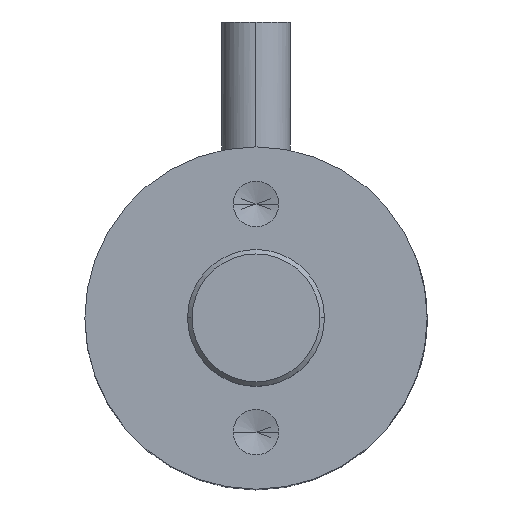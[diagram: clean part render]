
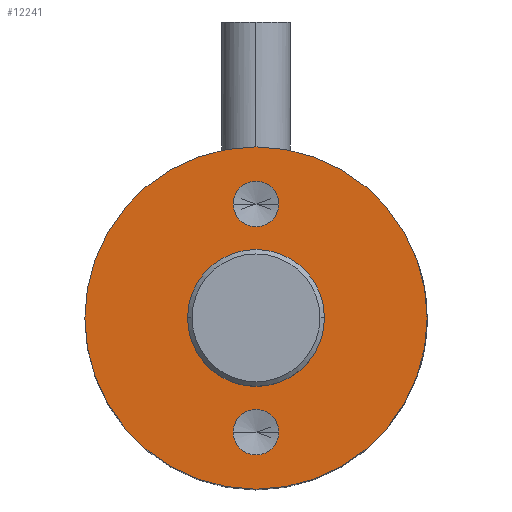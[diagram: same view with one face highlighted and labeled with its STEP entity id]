
A CAD part, top view. The second image highlights one B-rep face of the part: STEP entity #12241.
In plain terms, the highlighted planar face has unit normal (0, 0, 1).
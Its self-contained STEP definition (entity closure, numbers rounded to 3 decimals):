
#600 = CARTESIAN_POINT ( 'NONE',  ( 0., 5., 19.5 ) ) ;
#941 = CIRCLE ( 'NONE', #2556, 1. ) ;
#1303 = CIRCLE ( 'NONE', #26098, 7.5 ) ;
#2232 = CIRCLE ( 'NONE', #25327, 7.5 ) ;
#2556 = AXIS2_PLACEMENT_3D ( 'NONE', #24267, #15600, #7416 ) ;
#2827 = EDGE_CURVE ( 'NONE', #33991, #31148, #26367, .T. ) ;
#3027 = EDGE_LOOP ( 'NONE', ( #29315, #22988 ) ) ;
#3166 = CIRCLE ( 'NONE', #10175, 3. ) ;
#3450 = DIRECTION ( 'NONE',  ( 1., 0., 0. ) ) ;
#4369 = DIRECTION ( 'NONE',  ( 1., 0., 0. ) ) ;
#4689 = CARTESIAN_POINT ( 'NONE',  ( -1., -5., 19.5 ) ) ;
#4826 = CIRCLE ( 'NONE', #35832, 3. ) ;
#4961 = AXIS2_PLACEMENT_3D ( 'NONE', #32399, #12597, #32522 ) ;
#5928 = DIRECTION ( 'NONE',  ( 1., 0., 0. ) ) ;
#6926 = VERTEX_POINT ( 'NONE', #14431 ) ;
#7416 = DIRECTION ( 'NONE',  ( 1., 0., 0. ) ) ;
#7485 = CARTESIAN_POINT ( 'NONE',  ( 3., 0., 19.5 ) ) ;
#7914 = AXIS2_PLACEMENT_3D ( 'NONE', #600, #26107, #3450 ) ;
#8062 = CIRCLE ( 'NONE', #7914, 1. ) ;
#8089 = FACE_BOUND ( 'NONE', #36709, .T. ) ;
#8485 = CIRCLE ( 'NONE', #28046, 1. ) ;
#8950 = CARTESIAN_POINT ( 'NONE',  ( 0., 0., 19.5 ) ) ;
#10175 = AXIS2_PLACEMENT_3D ( 'NONE', #33249, #16282, #22344 ) ;
#10823 = CARTESIAN_POINT ( 'NONE',  ( -1., 5., 19.5 ) ) ;
#11028 = DIRECTION ( 'NONE',  ( 1., 0., 0. ) ) ;
#11039 = ORIENTED_EDGE ( 'NONE', *, *, #16791, .F. ) ;
#11549 = ORIENTED_EDGE ( 'NONE', *, *, #2827, .F. ) ;
#12241 = ADVANCED_FACE ( 'NONE', ( #15238, #8089, #33371, #28927 ), #22660, .T. ) ;
#12597 = DIRECTION ( 'NONE',  ( 0., 0., 1. ) ) ;
#12827 = DIRECTION ( 'NONE',  ( 0., 0., 1. ) ) ;
#14016 = CARTESIAN_POINT ( 'NONE',  ( 0., 0., 19.5 ) ) ;
#14431 = CARTESIAN_POINT ( 'NONE',  ( -7.5, 0., 19.5 ) ) ;
#14657 = DIRECTION ( 'NONE',  ( 1., 0., 0. ) ) ;
#15238 = FACE_BOUND ( 'NONE', #36519, .T. ) ;
#15600 = DIRECTION ( 'NONE',  ( 0., 0., 1. ) ) ;
#16282 = DIRECTION ( 'NONE',  ( 0., 0., 1. ) ) ;
#16791 = EDGE_CURVE ( 'NONE', #30146, #18667, #8485, .T. ) ;
#17167 = CARTESIAN_POINT ( 'NONE',  ( 1., -5., 19.5 ) ) ;
#18585 = VERTEX_POINT ( 'NONE', #7485 ) ;
#18667 = VERTEX_POINT ( 'NONE', #33472 ) ;
#18725 = ORIENTED_EDGE ( 'NONE', *, *, #33803, .T. ) ;
#20326 = DIRECTION ( 'NONE',  ( 0., 0., 1. ) ) ;
#21077 = CARTESIAN_POINT ( 'NONE',  ( -3., 0., 19.5 ) ) ;
#21133 = VERTEX_POINT ( 'NONE', #28926 ) ;
#21372 = DIRECTION ( 'NONE',  ( 1., 0., 0. ) ) ;
#22001 = EDGE_CURVE ( 'NONE', #18667, #30146, #8062, .T. ) ;
#22344 = DIRECTION ( 'NONE',  ( 1., 0., 0. ) ) ;
#22660 = PLANE ( 'NONE',  #33109 ) ;
#22692 = EDGE_LOOP ( 'NONE', ( #35387, #18725 ) ) ;
#22988 = ORIENTED_EDGE ( 'NONE', *, *, #30337, .F. ) ;
#24267 = CARTESIAN_POINT ( 'NONE',  ( 0., -5., 19.5 ) ) ;
#24555 = EDGE_CURVE ( 'NONE', #35531, #18585, #3166, .T. ) ;
#25327 = AXIS2_PLACEMENT_3D ( 'NONE', #26781, #29626, #4369 ) ;
#26098 = AXIS2_PLACEMENT_3D ( 'NONE', #31446, #20326, #5928 ) ;
#26107 = DIRECTION ( 'NONE',  ( 0., 0., 1. ) ) ;
#26367 = CIRCLE ( 'NONE', #4961, 1. ) ;
#26781 = CARTESIAN_POINT ( 'NONE',  ( 0., 0., 19.5 ) ) ;
#26808 = CARTESIAN_POINT ( 'NONE',  ( 0., 5., 19.5 ) ) ;
#27097 = EDGE_CURVE ( 'NONE', #31148, #33991, #941, .T. ) ;
#27561 = EDGE_CURVE ( 'NONE', #6926, #21133, #2232, .T. ) ;
#28046 = AXIS2_PLACEMENT_3D ( 'NONE', #26808, #12827, #21372 ) ;
#28113 = DIRECTION ( 'NONE',  ( 0., 0., 1. ) ) ;
#28764 = DIRECTION ( 'NONE',  ( 0., 0., 1. ) ) ;
#28779 = ORIENTED_EDGE ( 'NONE', *, *, #27097, .F. ) ;
#28927 = FACE_OUTER_BOUND ( 'NONE', #22692, .T. ) ;
#28926 = CARTESIAN_POINT ( 'NONE',  ( 7.5, 0., 19.5 ) ) ;
#29315 = ORIENTED_EDGE ( 'NONE', *, *, #24555, .F. ) ;
#29626 = DIRECTION ( 'NONE',  ( 0., 0., 1. ) ) ;
#30146 = VERTEX_POINT ( 'NONE', #10823 ) ;
#30337 = EDGE_CURVE ( 'NONE', #18585, #35531, #4826, .T. ) ;
#30938 = ORIENTED_EDGE ( 'NONE', *, *, #22001, .F. ) ;
#31148 = VERTEX_POINT ( 'NONE', #17167 ) ;
#31446 = CARTESIAN_POINT ( 'NONE',  ( 0., 0., 19.5 ) ) ;
#32399 = CARTESIAN_POINT ( 'NONE',  ( 0., -5., 19.5 ) ) ;
#32522 = DIRECTION ( 'NONE',  ( 1., 0., 0. ) ) ;
#33109 = AXIS2_PLACEMENT_3D ( 'NONE', #14016, #28113, #11028 ) ;
#33249 = CARTESIAN_POINT ( 'NONE',  ( 0., 0., 19.5 ) ) ;
#33371 = FACE_BOUND ( 'NONE', #3027, .T. ) ;
#33472 = CARTESIAN_POINT ( 'NONE',  ( 1., 5., 19.5 ) ) ;
#33803 = EDGE_CURVE ( 'NONE', #21133, #6926, #1303, .T. ) ;
#33991 = VERTEX_POINT ( 'NONE', #4689 ) ;
#35387 = ORIENTED_EDGE ( 'NONE', *, *, #27561, .T. ) ;
#35531 = VERTEX_POINT ( 'NONE', #21077 ) ;
#35832 = AXIS2_PLACEMENT_3D ( 'NONE', #8950, #28764, #14657 ) ;
#36519 = EDGE_LOOP ( 'NONE', ( #28779, #11549 ) ) ;
#36709 = EDGE_LOOP ( 'NONE', ( #30938, #11039 ) ) ;
